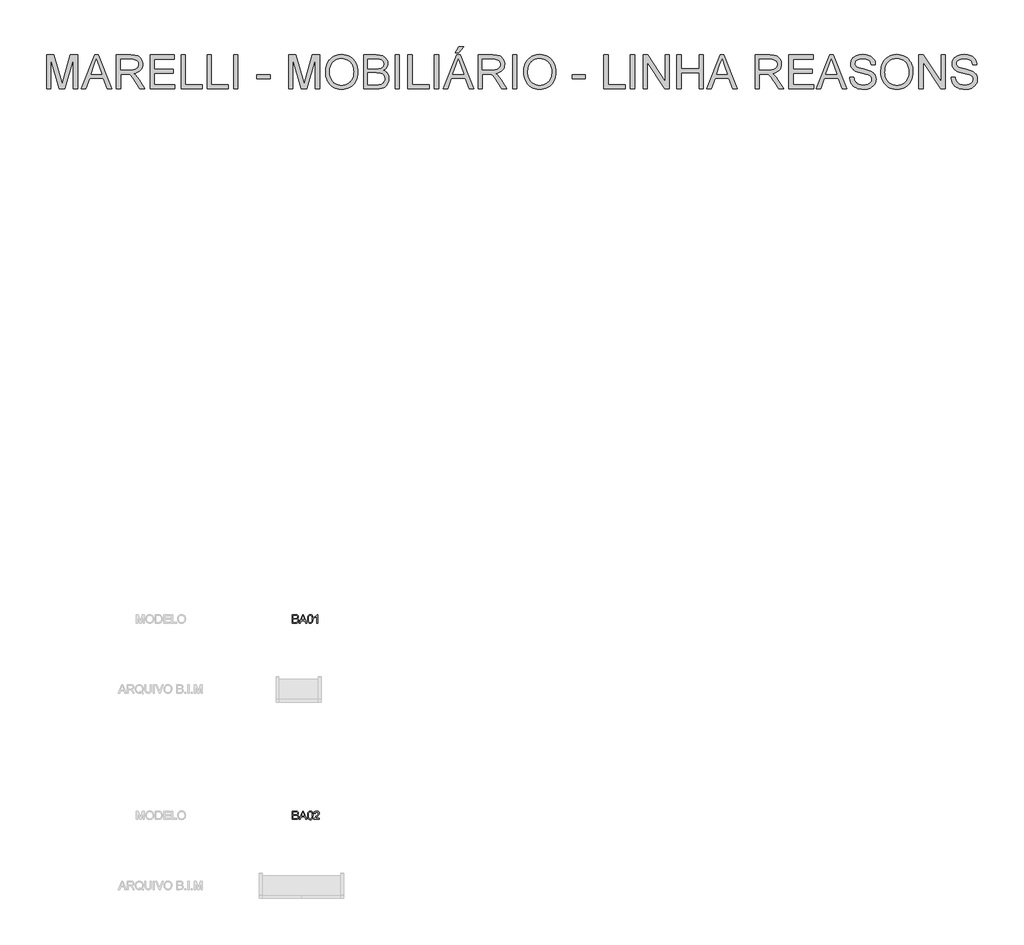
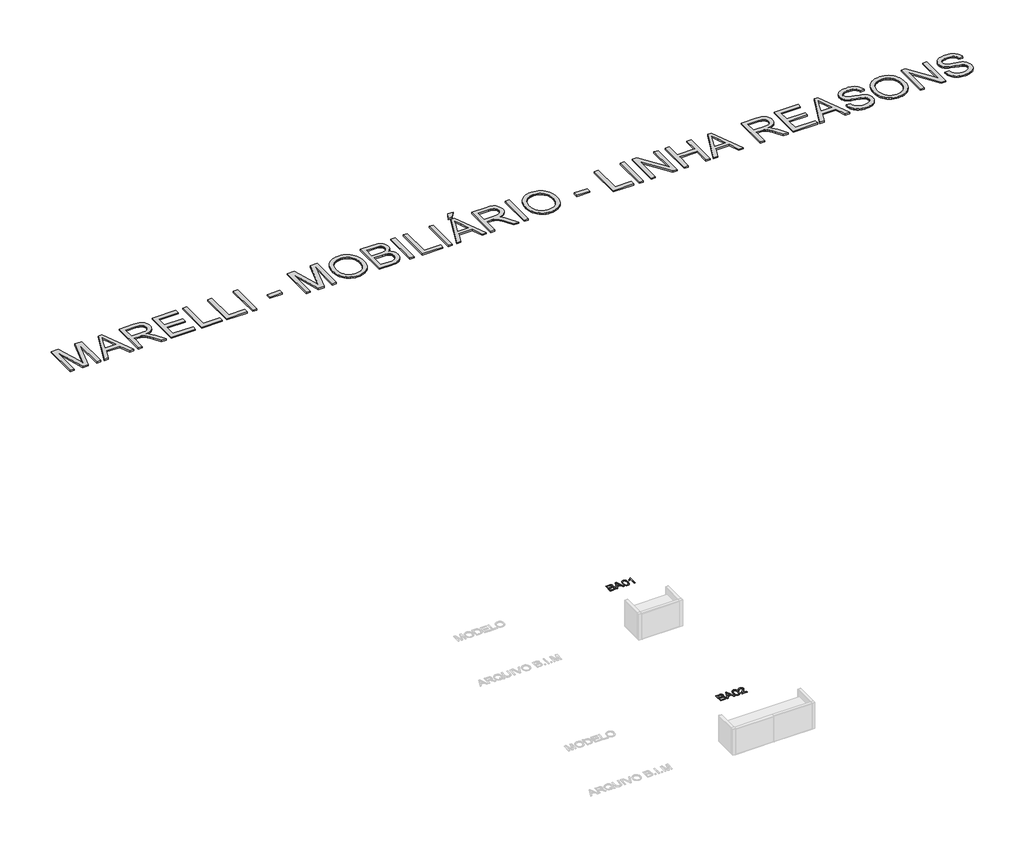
# One storey, part 15 of 15: 3 proxies.
"""IFC4 building model written with IfcOpenShell, lengths in millimetres."""

from ifc_helpers import new_model, si_unit, origin, origin_with_axes, place, context, project, spatial, polyline, outline, extrude, element, save

model = new_model("IFC4")

# Units and contexts
model_context = context("Model", 3, world=origin())
ifc_project = project(units=[si_unit("LENGTHUNIT", "METRE", prefix="MILLI")], contexts=[model_context])

# Site, building, storey
site = spatial("IfcSite", under=ifc_project)
building = spatial("IfcBuilding", under=site)
storey = spatial("IfcBuildingStorey", under=building, Name="Marelli - Linha REASONS - Planta Baixa", Elevation=0.0)

# Proxies
placement = place(None, origin())
element("IfcBuildingElementProxy", 1, Name="1200mm Arial", ObjectType="1200mm Arial", at=placement, inside=storey, context=model_context, shape_type="SweptSolid", body=[
    extrude(outline(polyline([(6826.6220399, 28269.4336799), (6826.6220399, 29474.9094017), (7085.9052701, 29474.9094017), (7332.5333597, 28625.2491457), (7382.2710054, 28447.7828712), (7436.1289295, 28639.9644255), (7678.6367407, 29474.9094017), (7937.9199709, 29474.9094017), (7937.9199709, 28269.4336799), (7787.2355057, 28269.4336799), (7787.2355057, 29324.2249365), (7484.3950473, 28269.4336799), (7280.1469636, 28269.4336799), (6977.3065051, 29324.2249365), (6977.3065051, 28269.4336799), (6826.6220399, 28269.4336799)])), origin_with_axes(), (0.0, 0.0, 1.0), 50.0),
    extrude(outline(polyline([(8061.2340157, 28269.4336799), (8542.4236654, 29474.9094017), (8670.7409053, 29474.9094017), (9151.930555, 28269.4336799), (8992.7112275, 28269.4336799), (8854.6819029, 28646.144843), (8358.1883622, 28646.144843), (8220.4533432, 28269.4336799), (8061.2340157, 28269.4336799)]), holes=[polyline([(8413.5178143, 28796.8293082), (8799.6467564, 28796.8293082), (8691.0479915, 29093.1950435), (8606.5822854, 29324.2249365), (8531.5343584, 29119.093936), (8413.5178143, 28796.8293082)])]), origin_with_axes(), (0.0, 0.0, 1.0), 50.0),
    extrude(outline(polyline([(9312.9157161, 28269.4336799), (9312.9157161, 29474.9094017), (9832.3650933, 29474.9094017), (9906.9255767, 29472.8768537), (9971.9763105, 29466.7792096), (10027.5172947, 29456.6164695), (10073.5485293, 29442.3886334), (10112.7463559, 29423.0012522), (10147.787116, 29397.3598771), (10178.6708095, 29365.4645082), (10205.3974364, 29327.3151453), (10226.9645184, 29284.9627306), (10242.3695769, 29240.4582062), (10251.6126121, 29193.8015722), (10254.6936238, 29144.9928285), (10249.5892611, 29083.0782887), (10234.276173, 29026.2405204), (10208.7543596, 28974.4795237), (10173.0238208, 28927.7952985), (10151.2153163, 28906.7294558), (10126.6247042, 28887.6777669), (10069.0971572, 28855.616851), (10000.4411798, 28831.6125509), (9920.6567721, 28815.6648664), (9970.3208415, 28783.2176744), (10006.2997006, 28751.2119408), (10068.0302994, 28678.0034238), (10128.436523, 28596.1128916), (10329.4472452, 28269.4336799), (10154.3354155, 28269.4336799), (9997.4705327, 28519.2991311), (9934.7098644, 28614.6541442), (9884.1628782, 28684.6988761), (9842.0403898, 28732.9282057), (9804.5532145, 28762.8370119), (9769.0526019, 28780.384983), (9732.8898018, 28791.5318075), (9697.6467067, 28795.504933), (9645.4810398, 28796.8293082), (9463.6001813, 28796.8293082), (9463.6001813, 28269.4336799), (9312.9157161, 28269.4336799)]), holes=[polyline([(9463.6001813, 28947.5137734), (9800.8743945, 28947.5137734), (9897.7377238, 28952.8480624), (9938.0299994, 28959.5159235), (9972.8960155, 28968.8509292), (10003.1175214, 28981.1197937), (10029.4762663, 28996.5892316), (10051.9722503, 29015.2592429), (10070.6054734, 29037.1298275), (10085.2195856, 29061.1249306), (10095.6582373, 29086.1684974), (10101.9214282, 29112.2605279), (10104.0091585, 29139.4010221), (10100.0268359, 29177.9366611), (10088.0798682, 29212.9038448), (10068.1682552, 29244.3025731), (10040.291997, 29272.132846), (10003.8073001, 29294.9231356), (9958.0703711, 29311.2019139), (9903.0812098, 29320.9691808), (9838.8398164, 29324.2249365), (9463.6001813, 29324.2249365), (9463.6001813, 28947.5137734)])]), origin_with_axes(), (0.0, 0.0, 1.0), 50.0),
    extrude(outline(polyline([(10518.3914379, 28269.4336799), (10518.3914379, 29474.9094017), (11384.8271129, 29474.9094017), (11384.8271129, 29324.2249365), (10669.0759031, 29324.2249365), (10669.0759031, 28966.3493316), (11347.1559966, 28966.3493316), (11347.1559966, 28815.6648664), (10669.0759031, 28815.6648664), (10669.0759031, 28420.1181452), (11403.6626711, 28420.1181452), (11403.6626711, 28269.4336799), (10518.3914379, 28269.4336799)])), origin_with_axes(), (0.0, 0.0, 1.0), 50.0),
    extrude(outline(polyline([(11629.6893689, 28269.4336799), (11629.6893689, 29474.9094017), (11780.3738342, 29474.9094017), (11780.3738342, 28420.1181452), (12383.1116951, 28420.1181452), (12383.1116951, 28269.4336799), (11629.6893689, 28269.4336799)])), origin_with_axes(), (0.0, 0.0, 1.0), 50.0),
    extrude(outline(polyline([(12552.6317184, 28269.4336799), (12552.6317184, 29474.9094017), (12703.3161837, 29474.9094017), (12703.3161837, 28420.1181452), (13306.0540446, 28420.1181452), (13306.0540446, 28269.4336799), (12552.6317184, 28269.4336799)])), origin_with_axes(), (0.0, 0.0, 1.0), 50.0),
    extrude(outline(polyline([(13494.4096261, 28269.4336799), (13494.4096261, 29474.9094017), (13645.0940913, 29474.9094017), (13645.0940913, 28269.4336799), (13494.4096261, 28269.4336799)])), origin_with_axes(), (0.0, 0.0, 1.0), 50.0),
    extrude(outline(polyline([(14323.1741848, 28627.3092848), (14323.1741848, 28777.9937501), (14794.0631387, 28777.9937501), (14794.0631387, 28627.3092848), (14323.1741848, 28627.3092848)])), origin_with_axes(), (0.0, 0.0, 1.0), 50.0),
    extrude(outline(polyline([(15453.307674, 28269.4336799), (15453.307674, 29474.9094017), (15712.5909042, 29474.9094017), (15959.2189938, 28625.2491457), (16008.9566395, 28447.7828712), (16062.8145636, 28639.9644255), (16305.3223748, 29474.9094017), (16564.605605, 29474.9094017), (16564.605605, 28269.4336799), (16413.9211398, 28269.4336799), (16413.9211398, 29324.2249365), (16111.0806814, 28269.4336799), (15906.8325977, 28269.4336799), (15603.9921392, 29324.2249365), (15603.9921392, 28269.4336799), (15453.307674, 28269.4336799)])), origin_with_axes(), (0.0, 0.0, 1.0), 50.0),
    extrude(outline(polyline([(16771.7967447, 28856.2790386), (16774.3075393, 28929.0047106), (16781.8399232, 28997.6744835), (16794.3938963, 29062.2883574), (16811.9694586, 29122.8463323), (16834.5666101, 29179.3484083), (16862.1853509, 29231.7945852), (16894.825681, 29280.1848632), (16932.4876002, 29324.5192421), (16974.1180465, 29364.1815197), (17018.6639576, 29398.5554936), (17066.1253335, 29427.6411639), (17116.5021742, 29451.4385304), (17169.7944797, 29469.9475933), (17226.0022501, 29483.1683525), (17285.1254852, 29491.100808), (17347.1641852, 29493.7449599), (17428.263771, 29488.7785529), (17505.2798667, 29473.8793321), (17578.2124722, 29449.0472975), (17647.0615876, 29414.2824489), (17709.8958324, 29370.6332502), (17764.7838261, 29319.148165), (17811.7255687, 29259.8271932), (17850.7210602, 29192.670335), (17881.3656304, 29119.2043006), (17903.2546091, 29040.9558002), (17916.3879963, 28957.9248339), (17920.7657921, 28870.1114017), (17916.1580701, 28781.1391411), (17902.3349041, 28696.9861347), (17879.2962942, 28617.6523825), (17847.0422402, 28543.1378843), (17806.3360975, 28475.410809), (17757.941221, 28416.4393252), (17701.8576108, 28366.2234329), (17638.085267, 28324.763132), (17569.134984, 28292.31594), (17497.5175566, 28269.1393743), (17423.2329847, 28255.2334349), (17346.2812684, 28250.5981218), (17263.7653369, 28255.7208786), (17185.7375657, 28271.0891489), (17112.1979549, 28296.7029328), (17043.1465044, 28332.5622303), (16980.385836, 28377.2782868), (16925.7185715, 28429.4623478), (16879.1447109, 28489.1144134), (16840.6642542, 28556.2344834), (16810.5347188, 28628.1278223), (16789.0136221, 28702.0996945), (16776.1009641, 28778.1500999), (16771.7967447, 28856.2790386)]), holes=[polyline([(16922.4812099, 28854.8075107), (16924.3643059, 28803.4557827), (16930.0135938, 28754.9091549), (16939.4290736, 28709.1676273), (16952.6107454, 28666.2311999), (16969.558609, 28626.0998728), (16990.2726646, 28588.7736458), (17014.7529121, 28554.2525191), (17042.9993516, 28522.5364926), (17074.0876794, 28494.1176085), (17107.0935922, 28469.4879089), (17142.0170898, 28448.6473939), (17178.8581724, 28431.5960634), (17217.6168398, 28418.3339175), (17258.2930922, 28408.8609561), (17300.8869294, 28403.1771793), (17345.3983516, 28401.282587), (17390.7237127, 28403.1955734), (17433.9935331, 28408.9345325), (17475.2078129, 28418.4994644), (17514.366552, 28431.890369), (17551.4697505, 28449.1072464), (17586.5174083, 28470.1500965), (17619.5095255, 28495.0189194), (17650.446102, 28523.713715), (17678.4856078, 28555.9263822), (17702.7865129, 28591.3488198), (17723.3488171, 28629.9810278), (17740.1725206, 28671.8230063), (17753.2576233, 28716.8747551), (17762.6041253, 28765.1362743), (17768.2120264, 28816.607564), (17770.0813268, 28871.288624), (17766.8807535, 28940.248104), (17757.2790334, 29004.6826355), (17741.2761666, 29064.5922184), (17718.8721531, 29119.9768528), (17690.3153132, 29170.1099717), (17655.8539673, 29214.2650081), (17615.4881154, 29252.4419622), (17569.2177575, 29284.6408338), (17518.4776333, 29310.1994354), (17464.7024826, 29328.4555794), (17407.8923055, 29339.4092659), (17348.047102, 29343.0604947), (17305.2486304, 29341.3015589), (17263.967672, 29336.0247515), (17224.2042268, 29327.2300726), (17185.9582949, 29314.917522), (17149.2298762, 29299.0870999), (17114.0189707, 29279.7388062), (17080.3255785, 29256.872641), (17048.1496995, 29230.4886041), (17018.6961473, 29199.993486), (16993.1697353, 29164.7940768), (16971.5704637, 29124.8903767), (16953.8983323, 29080.2823855), (16940.1533413, 29030.9701033), (16930.3354905, 28976.9535301), (16924.4447801, 28918.2326659), (16922.4812099, 28854.8075107)])]), origin_with_axes(), (0.0, 0.0, 1.0), 50.0),
    extrude(outline(polyline([(18127.9569317, 28269.4336799), (18127.9569317, 29474.9094017), (18587.9565785, 29474.9094017), (18654.6811754, 29472.6929127), (18714.4711967, 29466.0434456), (18767.3266423, 29454.9610005), (18813.2475124, 29439.4455774), (18853.4018321, 29419.3316293), (18888.957627, 29394.4536094), (18919.9148969, 29364.8115176), (18946.2736418, 29330.405354), (18967.325689, 29293.1756961), (18982.3628655, 29255.0631214), (18991.3851715, 29216.0676299), (18994.3926068, 29176.1892216), (18991.8634181, 29139.3550369), (18984.2758519, 29103.606104), (18971.6299083, 29068.942423), (18953.9255873, 29035.3639939), (18931.1077066, 29003.9192804), (18903.1210838, 28975.6567461), (18869.965719, 28950.5763911), (18831.6416121, 28928.6782153), (18877.1210238, 28909.2908341), (18917.0270232, 28884.0909175), (18951.3596104, 28853.0784653), (18980.1187854, 28816.2534776), (19002.8446956, 28774.7379944), (19019.0774887, 28729.6540559), (19028.8171645, 28681.001662), (19032.0637231, 28628.7808128), (19029.8472341, 28585.9869397), (19023.197767, 28544.7197769), (19012.1153219, 28504.9793244), (18996.5998988, 28466.7655821), (18977.8103258, 28431.4673047), (18956.9054315, 28400.4732466), (18933.8852156, 28373.7834079), (18908.7496783, 28351.3977885), (18880.9102083, 28332.3966834), (18849.7781945, 28315.8603877), (18815.3536368, 28301.7889014), (18777.6365352, 28290.1822245), (18736.0382786, 28281.1047362), (18689.9702558, 28274.6208161), (18584.4249114, 28269.4336799), (18127.9569317, 28269.4336799)]), holes=[polyline([(18278.641397, 28985.1848897), (18553.8171294, 28985.1848897), (18650.0550593, 28988.4222513), (18714.5079849, 28998.134336), (18744.6099291, 29007.9108), (18770.7571419, 29020.4647731), (18792.9496233, 29035.7962552), (18811.1873732, 29053.9052464), (18825.4152093, 29074.662988), (18835.5779495, 29097.9407213), (18841.6755935, 29123.7384462), (18843.7081416, 29152.0561628), (18841.8135493, 29179.1690658), (18836.1297725, 29204.5897117), (18826.6568111, 29228.3181004), (18813.3946652, 29250.3542319), (18796.6008521, 29269.8795688), (18776.5328892, 29286.0755736), (18753.1907766, 29298.9422464), (18726.5745143, 29308.4795871), (18693.2811937, 29315.3681775), (18649.9079065, 29320.2885992), (18532.921432, 29324.2249365), (18278.641397, 29324.2249365), (18278.641397, 28985.1848897)]), polyline([(18278.641397, 28420.1181452), (18587.6622729, 28420.1181452), (18655.35256, 28421.5896731), (18699.4983994, 28426.0042571), (18751.406549, 28439.0640679), (18794.1176486, 28458.819331), (18828.845709, 28487.1094565), (18856.8047406, 28525.7738542), (18867.5560919, 28548.5641438), (18875.2356285, 28573.0834788), (18879.8433505, 28599.3318591), (18881.3792579, 28627.3092848), (18879.5766361, 28659.9036296), (18874.1687708, 28690.2906824), (18865.1556619, 28718.4704432), (18852.5373094, 28744.4429121), (18835.8814521, 28767.463128), (18814.7558285, 28786.7861297), (18789.1604387, 28802.4119175), (18759.0952827, 28814.3404912), (18723.2359852, 28823.160462), (18680.2581711, 28829.4604412), (18572.9469931, 28834.5004245), (18278.641397, 28834.5004245), (18278.641397, 28420.1181452)])]), origin_with_axes(), (0.0, 0.0, 1.0), 50.0),
    extrude(outline(polyline([(19258.0904209, 28269.4336799), (19258.0904209, 29474.9094017), (19408.7748861, 29474.9094017), (19408.7748861, 28269.4336799), (19258.0904209, 28269.4336799)])), origin_with_axes(), (0.0, 0.0, 1.0), 50.0),
    extrude(outline(polyline([(19710.1438166, 28269.4336799), (19710.1438166, 29474.9094017), (19860.8282818, 29474.9094017), (19860.8282818, 28420.1181452), (20463.5661427, 28420.1181452), (20463.5661427, 28269.4336799), (19710.1438166, 28269.4336799)])), origin_with_axes(), (0.0, 0.0, 1.0), 50.0),
    extrude(outline(polyline([(20651.9217243, 28269.4336799), (20651.9217243, 29474.9094017), (20802.6061895, 29474.9094017), (20802.6061895, 28269.4336799), (20651.9217243, 28269.4336799)])), origin_with_axes(), (0.0, 0.0, 1.0), 50.0),
    extrude(outline(polyline([(20963.5913506, 28269.4336799), (21444.7810003, 29474.9094017), (21573.0982402, 29474.9094017), (22054.2878899, 28269.4336799), (21895.0685624, 28269.4336799), (21757.0392378, 28646.144843), (21260.5456971, 28646.144843), (21122.8106781, 28269.4336799), (20963.5913506, 28269.4336799)]), holes=[polyline([(21315.8751491, 28796.8293082), (21702.0040913, 28796.8293082), (21593.4053263, 29093.1950435), (21508.9396202, 29324.2249365), (21433.8916932, 29119.093936), (21315.8751491, 28796.8293082)])]), origin_with_axes(), (0.0, 0.0, 1.0), 50.0),
    extrude(outline(polyline([(21405.3440504, 29550.2516343), (21518.3573993, 29776.2783322), (21706.7129808, 29776.2783322), (21518.3573993, 29550.2516343), (21405.3440504, 29550.2516343)])), origin_with_axes(), (0.0, 0.0, 1.0), 50.0),
    extrude(outline(polyline([(22215.273051, 28269.4336799), (22215.273051, 29474.9094017), (22734.7224281, 29474.9094017), (22809.2829115, 29472.8768537), (22874.3336453, 29466.7792096), (22929.8746295, 29456.6164695), (22975.9058642, 29442.3886334), (23015.1036908, 29423.0012522), (23050.1444508, 29397.3598771), (23081.0281443, 29365.4645082), (23107.7547713, 29327.3151453), (23129.3218532, 29284.9627306), (23144.7269118, 29240.4582062), (23153.9699469, 29193.8015722), (23157.0509586, 29144.9928285), (23151.9465959, 29083.0782887), (23136.6335079, 29026.2405204), (23111.1116945, 28974.4795237), (23075.3811557, 28927.7952985), (23053.5726512, 28906.7294558), (23028.982039, 28887.6777669), (22971.454492, 28855.616851), (22902.7985147, 28831.6125509), (22823.014107, 28815.6648664), (22872.6781763, 28783.2176744), (22908.6570355, 28751.2119408), (22970.3876343, 28678.0034238), (23030.7938579, 28596.1128916), (23231.80458, 28269.4336799), (23056.6927503, 28269.4336799), (22899.8278676, 28519.2991311), (22837.0671992, 28614.6541442), (22786.5202131, 28684.6988761), (22744.3977246, 28732.9282057), (22706.9105493, 28762.8370119), (22671.4099368, 28780.384983), (22635.2471366, 28791.5318075), (22600.0040415, 28795.504933), (22547.8383746, 28796.8293082), (22365.9575162, 28796.8293082), (22365.9575162, 28269.4336799), (22215.273051, 28269.4336799)]), holes=[polyline([(22365.9575162, 28947.5137734), (22703.2317294, 28947.5137734), (22800.0950587, 28952.8480624), (22840.3873342, 28959.5159235), (22875.2533503, 28968.8509292), (22905.4748562, 28981.1197937), (22931.8336012, 28996.5892316), (22954.3295852, 29015.2592429), (22972.9628082, 29037.1298275), (22987.5769205, 29061.1249306), (22998.0155721, 29086.1684974), (23004.2787631, 29112.2605279), (23006.3664934, 29139.4010221), (23002.3841708, 29177.9366611), (22990.437203, 29212.9038448), (22970.52559, 29244.3025731), (22942.6493318, 29272.132846), (22906.1646349, 29294.9231356), (22860.4277059, 29311.2019139), (22805.4385447, 29320.9691808), (22741.1971513, 29324.2249365), (22365.9575162, 29324.2249365), (22365.9575162, 28947.5137734)])]), origin_with_axes(), (0.0, 0.0, 1.0), 50.0),
    extrude(outline(polyline([(23439.5843309, 28269.4336799), (23439.5843309, 29474.9094017), (23590.2687961, 29474.9094017), (23590.2687961, 28269.4336799), (23439.5843309, 28269.4336799)])), origin_with_axes(), (0.0, 0.0, 1.0), 50.0),
    extrude(outline(polyline([(23835.1310521, 28856.2790386), (23837.6418467, 28929.0047106), (23845.1742306, 28997.6744835), (23857.7282037, 29062.2883574), (23875.303766, 29122.8463323), (23897.9009175, 29179.3484083), (23925.5196583, 29231.7945852), (23958.1599884, 29280.1848632), (23995.8219076, 29324.5192421), (24037.4523539, 29364.1815197), (24081.998265, 29398.5554936), (24129.4596409, 29427.6411639), (24179.8364816, 29451.4385304), (24233.1287871, 29469.9475933), (24289.3365575, 29483.1683525), (24348.4597926, 29491.100808), (24410.4984926, 29493.7449599), (24491.5980784, 29488.7785529), (24568.6141741, 29473.8793321), (24641.5467796, 29449.0472975), (24710.395895, 29414.2824489), (24773.2301398, 29370.6332502), (24828.1181335, 29319.148165), (24875.0598761, 29259.8271932), (24914.0553676, 29192.670335), (24944.6999378, 29119.2043006), (24966.5889165, 29040.9558002), (24979.7223037, 28957.9248339), (24984.1000995, 28870.1114017), (24979.4923775, 28781.1391411), (24965.6692115, 28696.9861347), (24942.6306015, 28617.6523825), (24910.3765476, 28543.1378843), (24869.6704049, 28475.410809), (24821.2755284, 28416.4393252), (24765.1919182, 28366.2234329), (24701.4195744, 28324.763132), (24632.4692914, 28292.31594), (24560.851864, 28269.1393743), (24486.5672921, 28255.2334349), (24409.6155758, 28250.5981218), (24327.0996443, 28255.7208786), (24249.0718731, 28271.0891489), (24175.5322623, 28296.7029328), (24106.4808118, 28332.5622303), (24043.7201434, 28377.2782868), (23989.0528789, 28429.4623478), (23942.4790183, 28489.1144134), (23903.9985616, 28556.2344834), (23873.8690262, 28628.1278223), (23852.3479295, 28702.0996945), (23839.4352715, 28778.1500999), (23835.1310521, 28856.2790386)]), holes=[polyline([(23985.8155173, 28854.8075107), (23987.6986133, 28803.4557827), (23993.3479012, 28754.9091549), (24002.763381, 28709.1676273), (24015.9450527, 28666.2311999), (24032.8929164, 28626.0998728), (24053.606972, 28588.7736458), (24078.0872195, 28554.2525191), (24106.333659, 28522.5364926), (24137.4219868, 28494.1176085), (24170.4278996, 28469.4879089), (24205.3513972, 28448.6473939), (24242.1924798, 28431.5960634), (24280.9511472, 28418.3339175), (24321.6273996, 28408.8609561), (24364.2212368, 28403.1771793), (24408.732659, 28401.282587), (24454.0580201, 28403.1955734), (24497.3278405, 28408.9345325), (24538.5421203, 28418.4994644), (24577.7008594, 28431.890369), (24614.8040579, 28449.1072464), (24649.8517157, 28470.1500965), (24682.8438329, 28495.0189194), (24713.7804094, 28523.713715), (24741.8199152, 28555.9263822), (24766.1208203, 28591.3488198), (24786.6831245, 28629.9810278), (24803.506828, 28671.8230063), (24816.5919307, 28716.8747551), (24825.9384327, 28765.1362743), (24831.5463338, 28816.607564), (24833.4156342, 28871.288624), (24830.2150609, 28940.248104), (24820.6133408, 29004.6826355), (24804.610474, 29064.5922184), (24782.2064605, 29119.9768528), (24753.6496206, 29170.1099717), (24719.1882747, 29214.2650081), (24678.8224228, 29252.4419622), (24632.5520649, 29284.6408338), (24581.8119407, 29310.1994354), (24528.03679, 29328.4555794), (24471.2266129, 29339.4092659), (24411.3814094, 29343.0604947), (24368.5829377, 29341.3015589), (24327.3019794, 29336.0247515), (24287.5385342, 29327.2300726), (24249.2926023, 29314.917522), (24212.5641836, 29299.0870999), (24177.3532781, 29279.7388062), (24143.6598859, 29256.872641), (24111.4840069, 29230.4886041), (24082.0304547, 29199.993486), (24056.5040427, 29164.7940768), (24034.9047711, 29124.8903767), (24017.2326397, 29080.2823855), (24003.4876487, 29030.9701033), (23993.6697979, 28976.9535301), (23987.7790875, 28918.2326659), (23985.8155173, 28854.8075107)])]), origin_with_axes(), (0.0, 0.0, 1.0), 50.0),
    extrude(outline(polyline([(25568.0024022, 28627.3092848), (25568.0024022, 28777.9937501), (26038.891356, 28777.9937501), (26038.891356, 28627.3092848), (25568.0024022, 28627.3092848)])), origin_with_axes(), (0.0, 0.0, 1.0), 50.0),
    extrude(outline(polyline([(26698.1358914, 28269.4336799), (26698.1358914, 29474.9094017), (26848.8203566, 29474.9094017), (26848.8203566, 28420.1181452), (27451.5582175, 28420.1181452), (27451.5582175, 28269.4336799), (26698.1358914, 28269.4336799)])), origin_with_axes(), (0.0, 0.0, 1.0), 50.0),
    extrude(outline(polyline([(27639.913799, 28269.4336799), (27639.913799, 29474.9094017), (27790.5982643, 29474.9094017), (27790.5982643, 28269.4336799), (27639.913799, 28269.4336799)])), origin_with_axes(), (0.0, 0.0, 1.0), 50.0),
    extrude(outline(polyline([(28091.9671947, 28269.4336799), (28091.9671947, 29474.9094017), (28253.2466614, 29474.9094017), (28883.0606371, 28519.8877422), (28883.0606371, 29474.9094017), (29033.7451024, 29474.9094017), (29033.7451024, 28269.4336799), (28872.4656357, 28269.4336799), (28242.6516599, 29224.749645), (28242.6516599, 28269.4336799), (28091.9671947, 28269.4336799)])), origin_with_axes(), (0.0, 0.0, 1.0), 50.0),
    extrude(outline(polyline([(29297.4429165, 28269.4336799), (29297.4429165, 29474.9094017), (29448.1273817, 29474.9094017), (29448.1273817, 28985.1848897), (30088.5363589, 28985.1848897), (30088.5363589, 29474.9094017), (30239.2208242, 29474.9094017), (30239.2208242, 28269.4336799), (30088.5363589, 28269.4336799), (30088.5363589, 28834.5004245), (29448.1273817, 28834.5004245), (29448.1273817, 28269.4336799), (29297.4429165, 28269.4336799)])), origin_with_axes(), (0.0, 0.0, 1.0), 50.0),
    extrude(outline(polyline([(30362.5348689, 28269.4336799), (30843.7245186, 29474.9094017), (30972.0417585, 29474.9094017), (31453.2314082, 28269.4336799), (31294.0120807, 28269.4336799), (31155.9827561, 28646.144843), (30659.4892154, 28646.144843), (30521.7541965, 28269.4336799), (30362.5348689, 28269.4336799)]), holes=[polyline([(30714.8186675, 28796.8293082), (31100.9476097, 28796.8293082), (30992.3488447, 29093.1950435), (30907.8831386, 29324.2249365), (30832.8352116, 29119.093936), (30714.8186675, 28796.8293082)])]), origin_with_axes(), (0.0, 0.0, 1.0), 50.0),
    extrude(outline(polyline([(32085.1055232, 28269.4336799), (32085.1055232, 29474.9094017), (32604.5549003, 29474.9094017), (32679.1153837, 29472.8768537), (32744.1661175, 29466.7792096), (32799.7071017, 29456.6164695), (32845.7383364, 29442.3886334), (32884.936163, 29423.0012522), (32919.976923, 29397.3598771), (32950.8606165, 29365.4645082), (32977.5872435, 29327.3151453), (32999.1543254, 29284.9627306), (33014.559384, 29240.4582062), (33023.8024191, 29193.8015722), (33026.8834308, 29144.9928285), (33021.7790681, 29083.0782887), (33006.4659801, 29026.2405204), (32980.9441667, 28974.4795237), (32945.2136279, 28927.7952985), (32923.4051234, 28906.7294558), (32898.8145112, 28887.6777669), (32841.2869642, 28855.616851), (32772.6309869, 28831.6125509), (32692.8465792, 28815.6648664), (32742.5106485, 28783.2176744), (32778.4895077, 28751.2119408), (32840.2201065, 28678.0034238), (32900.6263301, 28596.1128916), (33101.6370522, 28269.4336799), (32926.5252225, 28269.4336799), (32769.6603398, 28519.2991311), (32706.8996714, 28614.6541442), (32656.3526853, 28684.6988761), (32614.2301968, 28732.9282057), (32576.7430215, 28762.8370119), (32541.242409, 28780.384983), (32505.0796088, 28791.5318075), (32469.8365137, 28795.504933), (32417.6708468, 28796.8293082), (32235.7899884, 28796.8293082), (32235.7899884, 28269.4336799), (32085.1055232, 28269.4336799)]), holes=[polyline([(32235.7899884, 28947.5137734), (32573.0642016, 28947.5137734), (32669.9275309, 28952.8480624), (32710.2198064, 28959.5159235), (32745.0858225, 28968.8509292), (32775.3073284, 28981.1197937), (32801.6660734, 28996.5892316), (32824.1620574, 29015.2592429), (32842.7952804, 29037.1298275), (32857.4093927, 29061.1249306), (32867.8480443, 29086.1684974), (32874.1112353, 29112.2605279), (32876.1989656, 29139.4010221), (32872.216643, 29177.9366611), (32860.2696752, 29212.9038448), (32840.3580622, 29244.3025731), (32812.481804, 29272.132846), (32775.9971071, 29294.9231356), (32730.2601781, 29311.2019139), (32675.2710169, 29320.9691808), (32611.0296235, 29324.2249365), (32235.7899884, 29324.2249365), (32235.7899884, 28947.5137734)])]), origin_with_axes(), (0.0, 0.0, 1.0), 50.0),
    extrude(outline(polyline([(33290.5812449, 28269.4336799), (33290.5812449, 29474.9094017), (34157.01692, 29474.9094017), (34157.01692, 29324.2249365), (33441.2657102, 29324.2249365), (33441.2657102, 28966.3493316), (34119.3458037, 28966.3493316), (34119.3458037, 28815.6648664), (33441.2657102, 28815.6648664), (33441.2657102, 28420.1181452), (34175.8524781, 28420.1181452), (34175.8524781, 28269.4336799), (33290.5812449, 28269.4336799)])), origin_with_axes(), (0.0, 0.0, 1.0), 50.0),
    extrude(outline(polyline([(34261.4954066, 28269.4336799), (34742.6850563, 29474.9094017), (34871.0022962, 29474.9094017), (35352.1919459, 28269.4336799), (35192.9726184, 28269.4336799), (35054.9432938, 28646.144843), (34558.4497531, 28646.144843), (34420.7147341, 28269.4336799), (34261.4954066, 28269.4336799)]), holes=[polyline([(34613.7792052, 28796.8293082), (34999.9081473, 28796.8293082), (34891.3093824, 29093.1950435), (34806.8436763, 29324.2249365), (34731.7957493, 29119.093936), (34613.7792052, 28796.8293082)])]), origin_with_axes(), (0.0, 0.0, 1.0), 50.0),
    extrude(outline(polyline([(35456.6704325, 28683.8159593), (35607.3548978, 28683.8159593), (35614.2526852, 28639.9552284), (35624.6453515, 28600.1963818), (35638.5328969, 28564.5394194), (35655.9153211, 28532.9843413), (35677.6755412, 28504.8965509), (35704.6964737, 28479.641452), (35736.9781188, 28457.2190444), (35774.5204764, 28437.6293281), (35815.943989, 28421.7276289), (35859.8690993, 28410.3692723), (35906.2958071, 28403.5542583), (35955.2241124, 28401.282587), (35998.5054291, 28403.0024353), (36039.1747837, 28408.1619803), (36077.2321761, 28416.761222), (36112.6776063, 28428.8001602), (36144.6373547, 28443.8465338), (36172.2377014, 28461.4680814), (36195.4786464, 28481.6648029), (36214.3601898, 28504.4366985), (36228.9743021, 28528.7996836), (36239.4129537, 28553.769674), (36245.6761447, 28579.3466697), (36247.763875, 28605.5306707), (36246.2003765, 28631.6043071), (36241.5098811, 28655.9672923), (36233.6923887, 28678.6196261), (36222.7478993, 28699.5613087), (36206.9657617, 28718.9027046), (36184.6353246, 28736.7541784), (36155.756588, 28753.1157301), (36120.3295518, 28767.9873598), (36040.7566763, 28791.6421721), (35900.9247299, 28825.5241038), (35756.8989288, 28863.5998903), (35704.3377888, 28881.9480049), (35664.744489, 28899.8362669), (35624.5073958, 28923.8405671), (35589.7333502, 28950.5304058), (35560.4223522, 28979.9057831), (35536.5744019, 29011.966699), (35518.0975287, 29046.3820596), (35504.8997621, 29082.8207713), (35496.9811022, 29121.2828339), (35494.3415489, 29161.7682474), (35497.6065016, 29206.6406538), (35507.4013597, 29250.0231381), (35523.7261232, 29291.9157003), (35546.5807922, 29332.3183404), (35575.7078491, 29369.5847865), (35610.8497767, 29402.0687667), (35652.0065749, 29429.7702809), (35699.1782438, 29452.6893292), (35750.7736936, 29470.6511676), (35805.2018348, 29483.4810522), (35862.4626673, 29491.178983), (35922.5561912, 29493.7449599), (35988.1127628, 29491.0594213), (36049.6962088, 29483.0028056), (36107.3065292, 29469.5751128), (36160.9437241, 29450.7763428), (36209.6145121, 29426.7720427), (36252.3256117, 29397.7277591), (36289.077023, 29363.6434923), (36319.868746, 29324.5192421), (36344.4616574, 29281.4954428), (36362.6166339, 29235.7125285), (36374.3336754, 29187.1704992), (36379.612782, 29135.869355), (36228.9283168, 29135.869355), (36218.8483502, 29183.9515317), (36201.2635908, 29225.7797146), (36176.1740387, 29261.3539035), (36143.5796939, 29290.6740985), (36102.8735512, 29313.5931468), (36053.4486051, 29329.9638956), (35995.3048558, 29339.7863449), (35928.4423032, 29343.0604947), (35859.446035, 29339.8231331), (35800.4929452, 29330.1110484), (35751.583034, 29313.9242406), (35712.7163012, 29291.2627097), (35683.1018006, 29264.021048), (35661.9485859, 29234.0938477), (35649.256657, 29201.4811088), (35645.0260141, 29166.1828314), (35648.0242523, 29135.8141727), (35657.0189671, 29108.2782053), (35672.0101584, 29083.5749294), (35692.9978263, 29061.7043447), (35726.0336294, 29040.9925884), (35778.0521435, 29020.0601029), (35849.0533686, 28998.9068882), (35939.0373046, 28977.5329442), (36105.1728136, 28937.1395012), (36163.6292627, 28918.8741601), (36205.6781747, 28901.896406), (36251.8749563, 28876.1630605), (36291.5786206, 28847.2291416), (36324.7891677, 28815.0946493), (36351.5065976, 28779.7595836), (36372.04361, 28741.4078856), (36386.7129046, 28700.2234963), (36395.5144813, 28656.2064156), (36398.4483402, 28609.3566435), (36395.0730229, 28562.2217628), (36384.947071, 28516.4664397), (36368.0704845, 28472.090674), (36344.4432633, 28429.0944658), (36314.4792748, 28389.1424812), (36278.5923862, 28353.899386), (36236.7825974, 28323.3651804), (36189.0499085, 28297.5398644), (36136.7830741, 28277.002852), (36081.3708486, 28262.3335574), (36022.813232, 28253.5319807), (35961.1102243, 28250.5981218), (35884.0297493, 28253.7619069), (35813.4791797, 28263.2532624), (35749.4585155, 28279.0721882), (35691.9677567, 28301.2186843), (35640.6574154, 28329.7295389), (35595.1780037, 28364.6415403), (35555.5295217, 28405.9546883), (35521.7119693, 28453.6689831), (35494.4703076, 28506.2393202), (35474.5494975, 28562.1205953), (35461.9495392, 28621.3128083), (35456.6704325, 28683.8159593)])), origin_with_axes(), (0.0, 0.0, 1.0), 50.0),
    extrude(outline(polyline([(36567.9683636, 28856.2790386), (36570.4791582, 28929.0047106), (36578.011542, 28997.6744835), (36590.5655151, 29062.2883574), (36608.1410775, 29122.8463323), (36630.738229, 29179.3484083), (36658.3569698, 29231.7945852), (36690.9972998, 29280.1848632), (36728.6592191, 29324.5192421), (36770.2896654, 29364.1815197), (36814.8355764, 29398.5554936), (36862.2969523, 29427.6411639), (36912.6737931, 29451.4385304), (36965.9660986, 29469.9475933), (37022.1738689, 29483.1683525), (37081.2971041, 29491.100808), (37143.335804, 29493.7449599), (37224.4353899, 29488.7785529), (37301.4514856, 29473.8793321), (37374.3840911, 29449.0472975), (37443.2332065, 29414.2824489), (37506.0674513, 29370.6332502), (37560.955445, 29319.148165), (37607.8971875, 29259.8271932), (37646.892679, 29192.670335), (37677.5372492, 29119.2043006), (37699.4262279, 29040.9558002), (37712.5596152, 28957.9248339), (37716.9374109, 28870.1114017), (37712.3296889, 28781.1391411), (37698.506523, 28696.9861347), (37675.467913, 28617.6523825), (37643.2138591, 28543.1378843), (37602.5077163, 28475.410809), (37554.1128399, 28416.4393252), (37498.0292297, 28366.2234329), (37434.2568858, 28324.763132), (37365.3066029, 28292.31594), (37293.6891755, 28269.1393743), (37219.4046036, 28255.2334349), (37142.4528872, 28250.5981218), (37059.9369557, 28255.7208786), (36981.9091846, 28271.0891489), (36908.3695737, 28296.7029328), (36839.3181232, 28332.5622303), (36776.5574548, 28377.2782868), (36721.8901904, 28429.4623478), (36675.3163298, 28489.1144134), (36636.8358731, 28556.2344834), (36606.7063377, 28628.1278223), (36585.185241, 28702.0996945), (36572.2725829, 28778.1500999), (36567.9683636, 28856.2790386)]), holes=[polyline([(36718.6528288, 28854.8075107), (36720.5359248, 28803.4557827), (36726.1852127, 28754.9091549), (36735.6006925, 28709.1676273), (36748.7823642, 28666.2311999), (36765.7302279, 28626.0998728), (36786.4442835, 28588.7736458), (36810.924531, 28554.2525191), (36839.1709704, 28522.5364926), (36870.2592983, 28494.1176085), (36903.265211, 28469.4879089), (36938.1887087, 28448.6473939), (36975.0297912, 28431.5960634), (37013.7884587, 28418.3339175), (37054.4647111, 28408.8609561), (37097.0585483, 28403.1771793), (37141.5699705, 28401.282587), (37186.8953315, 28403.1955734), (37230.1651519, 28408.9345325), (37271.3794317, 28418.4994644), (37310.5381708, 28431.890369), (37347.6413693, 28449.1072464), (37382.6890271, 28470.1500965), (37415.6811443, 28495.0189194), (37446.6177209, 28523.713715), (37474.6572267, 28555.9263822), (37498.9581317, 28591.3488198), (37519.520436, 28629.9810278), (37536.3441395, 28671.8230063), (37549.4292422, 28716.8747551), (37558.7757441, 28765.1362743), (37564.3836453, 28816.607564), (37566.2529457, 28871.288624), (37563.0523723, 28940.248104), (37553.4506523, 29004.6826355), (37537.4477855, 29064.5922184), (37515.043772, 29119.9768528), (37486.4869321, 29170.1099717), (37452.0255862, 29214.2650081), (37411.6597343, 29252.4419622), (37365.3893763, 29284.6408338), (37314.6492521, 29310.1994354), (37260.8741015, 29328.4555794), (37204.0639244, 29339.4092659), (37144.2187208, 29343.0604947), (37101.4202492, 29341.3015589), (37060.1392908, 29336.0247515), (37020.3758457, 29327.2300726), (36982.1299137, 29314.917522), (36945.4014951, 29299.0870999), (36910.1905896, 29279.7388062), (36876.4971974, 29256.872641), (36844.3213184, 29230.4886041), (36814.8677661, 29199.993486), (36789.3413542, 29164.7940768), (36767.7420825, 29124.8903767), (36750.0699512, 29080.2823855), (36736.3249601, 29030.9701033), (36726.5071094, 28976.9535301), (36720.616399, 28918.2326659), (36718.6528288, 28854.8075107)])]), origin_with_axes(), (0.0, 0.0, 1.0), 50.0),
    extrude(outline(polyline([(37924.1285506, 28269.4336799), (37924.1285506, 29474.9094017), (38085.4080173, 29474.9094017), (38715.221993, 28519.8877422), (38715.221993, 29474.9094017), (38865.9064583, 29474.9094017), (38865.9064583, 28269.4336799), (38704.6269916, 28269.4336799), (38074.8130158, 29224.749645), (38074.8130158, 28269.4336799), (37924.1285506, 28269.4336799)])), origin_with_axes(), (0.0, 0.0, 1.0), 50.0),
    extrude(outline(polyline([(39073.0975979, 28683.8159593), (39223.7820632, 28683.8159593), (39230.6798506, 28639.9552284), (39241.0725169, 28600.1963818), (39254.9600623, 28564.5394194), (39272.3424865, 28532.9843413), (39294.1027065, 28504.8965509), (39321.1236391, 28479.641452), (39353.4052842, 28457.2190444), (39390.9476418, 28437.6293281), (39432.3711544, 28421.7276289), (39476.2962646, 28410.3692723), (39522.7229724, 28403.5542583), (39571.6512778, 28401.282587), (39614.9325945, 28403.0024353), (39655.6019491, 28408.1619803), (39693.6593415, 28416.761222), (39729.1047717, 28428.8001602), (39761.0645201, 28443.8465338), (39788.6648668, 28461.4680814), (39811.9058118, 28481.6648029), (39830.7873552, 28504.4366985), (39845.4014675, 28528.7996836), (39855.8401191, 28553.769674), (39862.10331, 28579.3466697), (39864.1910404, 28605.5306707), (39862.6275419, 28631.6043071), (39857.9370464, 28655.9672923), (39850.119554, 28678.6196261), (39839.1750647, 28699.5613087), (39823.3929271, 28718.9027046), (39801.06249, 28736.7541784), (39772.1837534, 28753.1157301), (39736.7567172, 28767.9873598), (39657.1838417, 28791.6421721), (39517.3518953, 28825.5241038), (39373.3260942, 28863.5998903), (39320.7649541, 28881.9480049), (39281.1716544, 28899.8362669), (39240.9345612, 28923.8405671), (39206.1605156, 28950.5304058), (39176.8495176, 28979.9057831), (39153.0015673, 29011.966699), (39134.5246941, 29046.3820596), (39121.3269275, 29082.8207713), (39113.4082676, 29121.2828339), (39110.7687142, 29161.7682474), (39114.0336669, 29206.6406538), (39123.8285251, 29250.0231381), (39140.1532886, 29291.9157003), (39163.0079576, 29332.3183404), (39192.1350145, 29369.5847865), (39227.2769421, 29402.0687667), (39268.4337403, 29429.7702809), (39315.6054092, 29452.6893292), (39367.200859, 29470.6511676), (39421.6290002, 29483.4810522), (39478.8898327, 29491.178983), (39538.9833566, 29493.7449599), (39604.5399282, 29491.0594213), (39666.1233742, 29483.0028056), (39723.7336946, 29469.5751128), (39777.3708895, 29450.7763428), (39826.0416775, 29426.7720427), (39868.7527771, 29397.7277591), (39905.5041884, 29363.6434923), (39936.2959114, 29324.5192421), (39960.8888228, 29281.4954428), (39979.0437993, 29235.7125285), (39990.7608408, 29187.1704992), (39996.0399474, 29135.869355), (39845.3554822, 29135.869355), (39835.2755155, 29183.9515317), (39817.6907562, 29225.7797146), (39792.6012041, 29261.3539035), (39760.0068593, 29290.6740985), (39719.3007166, 29313.5931468), (39669.8757705, 29329.9638956), (39611.7320212, 29339.7863449), (39544.8694686, 29343.0604947), (39475.8732004, 29339.8231331), (39416.9201106, 29330.1110484), (39368.0101994, 29313.9242406), (39329.1434666, 29291.2627097), (39299.528966, 29264.021048), (39278.3757512, 29234.0938477), (39265.6838224, 29201.4811088), (39261.4531795, 29166.1828314), (39264.4514177, 29135.8141727), (39273.4461325, 29108.2782053), (39288.4373238, 29083.5749294), (39309.4249916, 29061.7043447), (39342.4607948, 29040.9925884), (39394.4793089, 29020.0601029), (39465.480534, 28998.9068882), (39555.46447, 28977.5329442), (39721.599979, 28937.1395012), (39780.0564281, 28918.8741601), (39822.1053401, 28901.896406), (39868.3021217, 28876.1630605), (39908.005786, 28847.2291416), (39941.2163331, 28815.0946493), (39967.933763, 28779.7595836), (39988.4707754, 28741.4078856), (40003.1400699, 28700.2234963), (40011.9416467, 28656.2064156), (40014.8755056, 28609.3566435), (40011.5001883, 28562.2217628), (40001.3742364, 28516.4664397), (39984.4976498, 28472.090674), (39960.8704287, 28429.0944658), (39930.9064402, 28389.1424812), (39895.0195516, 28353.899386), (39853.2097628, 28323.3651804), (39805.4770739, 28297.5398644), (39753.2102395, 28277.002852), (39697.7980139, 28262.3335574), (39639.2403974, 28253.5319807), (39577.5373897, 28250.5981218), (39500.4569147, 28253.7619069), (39429.9063451, 28263.2532624), (39365.8856808, 28279.0721882), (39308.3949221, 28301.2186843), (39257.0845808, 28329.7295389), (39211.6051691, 28364.6415403), (39171.9566871, 28405.9546883), (39138.1391347, 28453.6689831), (39110.8974729, 28506.2393202), (39090.9766629, 28562.1205953), (39078.3767046, 28621.3128083), (39073.0975979, 28683.8159593)])), origin_with_axes(), (0.0, 0.0, 1.0), 50.0),
])
element("IfcBuildingElementProxy", 2, Name="300mm Arial", ObjectType="300mm Arial", at=placement, inside=storey, context=model_context, shape_type="SweptSolid", body=[
    extrude(outline(polyline([(15588.7720603, 2219.4336799), (15588.7720603, 2520.8026104), (15703.771972, 2520.8026104), (15735.4006265, 2518.5861214), (15760.0947055, 2511.9366543), (15779.0222341, 2500.6886623), (15793.3512378, 2484.6765985), (15802.3735438, 2465.8410403), (15805.3809791, 2446.1225654), (15802.8517903, 2427.9767859), (15795.2642242, 2410.9162584), (15782.5630983, 2395.9894465), (15764.6932304, 2384.2448138), (15786.0395832, 2373.0979893), (15801.8125237, 2356.1386293), (15811.5521995, 2334.4887739), (15814.7987581, 2309.2704632), (15812.5822691, 2288.2552042), (15805.9328021, 2268.7666555), (15796.0091852, 2252.1935716), (15783.9702469, 2239.9247071), (15769.227376, 2231.0403569), (15751.1919612, 2224.6208161), (15702.8890552, 2219.4336799), (15588.7720603, 2219.4336799)]), holes=[polyline([(15626.4431766, 2398.3714824), (15695.2371097, 2398.3714824), (15735.4098236, 2401.6088439), (15749.4721128, 2407.1914532), (15759.5796707, 2415.5515716), (15765.6773147, 2426.5604403), (15767.7098628, 2440.0893006), (15765.8152705, 2453.2226879), (15760.1314937, 2464.6638179), (15750.9160497, 2473.5941533), (15738.4264559, 2479.1951567), (15690.0131854, 2483.1314941), (15626.4431766, 2483.1314941), (15626.4431766, 2398.3714824)]), polyline([(15626.4431766, 2257.1047962), (15703.6983956, 2257.1047962), (15731.6574272, 2258.5763242), (15755.3122395, 2266.7800927), (15770.9840125, 2283.5187235), (15775.5917345, 2295.3461296), (15777.1276418, 2308.9025812), (15775.3250201, 2324.6479306), (15769.9171547, 2338.185988), (15760.4717845, 2348.7717924), (15746.556648, 2355.6603827), (15726.8473701, 2359.4403702), (15700.0195756, 2360.7003661), (15626.4431766, 2360.7003661), (15626.4431766, 2257.1047962)])]), origin_with_axes(), (0.0, 0.0, 1.0), 10.0),
    extrude(outline(polyline([(15831.5006007, 2219.4336799), (15951.7980131, 2520.8026104), (15983.8773231, 2520.8026104), (16104.1747355, 2219.4336799), (16064.3699037, 2219.4336799), (16029.8625725, 2313.6114707), (15905.7391873, 2313.6114707), (15871.3054326, 2219.4336799), (15831.5006007, 2219.4336799)]), holes=[polyline([(15919.5715504, 2351.282587), (16016.1037859, 2351.282587), (15988.9540947, 2425.3740208), (15967.8376681, 2483.1314941), (15949.0756864, 2431.8487439), (15919.5715504, 2351.282587)])]), origin_with_axes(), (0.0, 0.0, 1.0), 10.0),
    extrude(outline(polyline([(16130.2943572, 2367.690124), (16133.0626692, 2415.9286506), (16141.3676053, 2454.3999103), (16155.1263919, 2483.6925141), (16174.2562556, 2504.3950734), (16198.8951523, 2516.7007261), (16229.1810375, 2520.8026104), (16252.3943914, 2518.3745892), (16273.1797241, 2511.0905257), (16290.5621484, 2499.2355284), (16303.5667769, 2483.0947059), (16313.3892262, 2462.8060138), (16321.2251127, 2438.5074081), (16326.3570665, 2407.6513057), (16328.0677178, 2367.690124), (16325.3269969, 2319.7275089), (16317.1048344, 2281.3482197), (16303.4288212, 2252.0280247), (16284.3265486, 2231.242692), (16259.6324697, 2218.8542658), (16229.1810375, 2214.7247904), (16208.432493, 2216.5182151), (16190.0383932, 2221.8984893), (16173.9987382, 2230.8656129), (16160.313528, 2243.419586), (16147.1801408, 2266.1133066), (16137.7991499, 2294.3896364), (16132.1705554, 2328.2485756), (16130.2943572, 2367.690124)]), holes=[polyline([(16167.9654735, 2367.7637004), (16172.3800575, 2308.507108), (16177.8982874, 2288.2391093), (16185.6238093, 2274.211309), (16205.3422842, 2257.8497573), (16229.1810375, 2252.3959067), (16253.0197908, 2257.8681514), (16272.7382657, 2274.2848854), (16280.4637876, 2288.3356784), (16285.9820176, 2308.5990785), (16290.3966015, 2367.7637004), (16286.1291704, 2425.6867205), (16280.7948814, 2445.8880406), (16273.3268769, 2460.249234), (16253.6451902, 2477.410929), (16228.7395791, 2483.1314941), (16205.1583432, 2478.0915107), (16186.2124205, 2462.9715607), (16178.2293812, 2447.3365759), (16172.5272102, 2426.2569376), (16167.9654735, 2367.7637004)])]), origin_with_axes(), (0.0, 0.0, 1.0), 10.0),
    extrude(outline(polyline([(16554.0944156, 2257.1047962), (16554.0944156, 2219.4336799), (16356.321055, 2219.4336799), (16360.367757, 2245.4061488), (16369.6567774, 2265.7040379), (16383.2500171, 2285.3949217), (16402.9133097, 2306.0055104), (16430.4124889, 2329.0625145), (16471.0634493, 2365.1701323), (16495.4540256, 2391.8231829), (16507.6493138, 2413.4546442), (16511.7144098, 2434.4974943), (16507.87924, 2453.3606436), (16496.3737306, 2469.0416137), (16478.6878037, 2479.609024), (16456.3113813, 2483.1314941), (16432.8129189, 2479.6917974), (16414.5567749, 2469.3727075), (16402.775354, 2452.9835646), (16398.7010609, 2431.3337092), (16361.0299446, 2436.0425987), (16370.1626151, 2472.4813103), (16378.7089737, 2487.0172476), (16389.9086812, 2499.0975727), (16403.5042202, 2508.5935267), (16419.2380733, 2515.376351), (16457.1207217, 2520.8026104), (16477.3105455, 2519.2942942), (16495.2792817, 2514.7693457), (16511.0269303, 2507.2277648), (16524.5534914, 2496.6695515), (16535.4175066, 2483.8764551), (16543.1775174, 2469.6302249), (16547.8335239, 2453.9308607), (16549.3855261, 2436.7783627), (16547.711663, 2418.761342), (16542.6900738, 2401.057021), (16533.7781325, 2383.0491973), (16520.4332131, 2364.1216686), (16499.1604367, 2341.5245171), (16466.4649244, 2312.5078247), (16423.1284254, 2276.2714482), (16406.1322772, 2257.1047962), (16554.0944156, 2257.1047962)])), origin_with_axes(), (0.0, 0.0, 1.0), 10.0),
])
element("IfcBuildingElementProxy", 3, Name="300mm Arial", ObjectType="300mm Arial", at=placement, inside=storey, context=model_context, shape_type="SweptSolid", body=[
    extrude(outline(polyline([(15588.7720603, 9219.4336799), (15588.7720603, 9520.8026104), (15703.771972, 9520.8026104), (15735.4006265, 9518.5861214), (15760.0947055, 9511.9366543), (15779.0222341, 9500.6886623), (15793.3512378, 9484.6765985), (15802.3735438, 9465.8410403), (15805.3809791, 9446.1225654), (15802.8517903, 9427.9767859), (15795.2642242, 9410.9162584), (15782.5630983, 9395.9894465), (15764.6932304, 9384.2448138), (15786.0395832, 9373.0979893), (15801.8125237, 9356.1386293), (15811.5521995, 9334.4887739), (15814.7987581, 9309.2704632), (15812.5822691, 9288.2552042), (15805.9328021, 9268.7666555), (15796.0091852, 9252.1935716), (15783.9702469, 9239.9247071), (15769.227376, 9231.0403569), (15751.1919612, 9224.6208161), (15702.8890552, 9219.4336799), (15588.7720603, 9219.4336799)]), holes=[polyline([(15626.4431766, 9398.3714824), (15695.2371097, 9398.3714824), (15735.4098236, 9401.6088439), (15749.4721128, 9407.1914532), (15759.5796707, 9415.5515716), (15765.6773147, 9426.5604403), (15767.7098628, 9440.0893006), (15765.8152705, 9453.2226879), (15760.1314937, 9464.6638179), (15750.9160497, 9473.5941533), (15738.4264559, 9479.1951567), (15690.0131854, 9483.1314941), (15626.4431766, 9483.1314941), (15626.4431766, 9398.3714824)]), polyline([(15626.4431766, 9257.1047962), (15703.6983956, 9257.1047962), (15731.6574272, 9258.5763242), (15755.3122395, 9266.7800927), (15770.9840125, 9283.5187235), (15775.5917345, 9295.3461296), (15777.1276418, 9308.9025812), (15775.3250201, 9324.6479306), (15769.9171547, 9338.185988), (15760.4717845, 9348.7717924), (15746.556648, 9355.6603827), (15726.8473701, 9359.4403702), (15700.0195756, 9360.7003661), (15626.4431766, 9360.7003661), (15626.4431766, 9257.1047962)])]), origin_with_axes(), (0.0, 0.0, 1.0), 10.0),
    extrude(outline(polyline([(15831.5006007, 9219.4336799), (15951.7980131, 9520.8026104), (15983.8773231, 9520.8026104), (16104.1747355, 9219.4336799), (16064.3699037, 9219.4336799), (16029.8625725, 9313.6114707), (15905.7391873, 9313.6114707), (15871.3054326, 9219.4336799), (15831.5006007, 9219.4336799)]), holes=[polyline([(15919.5715504, 9351.282587), (16016.1037859, 9351.282587), (15988.9540947, 9425.3740208), (15967.8376681, 9483.1314941), (15949.0756864, 9431.8487439), (15919.5715504, 9351.282587)])]), origin_with_axes(), (0.0, 0.0, 1.0), 10.0),
    extrude(outline(polyline([(16130.2943572, 9367.690124), (16133.0626692, 9415.9286506), (16141.3676053, 9454.3999103), (16155.1263919, 9483.6925141), (16174.2562556, 9504.3950734), (16198.8951523, 9516.7007261), (16229.1810375, 9520.8026104), (16252.3943914, 9518.3745892), (16273.1797241, 9511.0905257), (16290.5621484, 9499.2355284), (16303.5667769, 9483.0947059), (16313.3892262, 9462.8060138), (16321.2251127, 9438.5074081), (16326.3570665, 9407.6513057), (16328.0677178, 9367.690124), (16325.3269969, 9319.7275089), (16317.1048344, 9281.3482197), (16303.4288212, 9252.0280247), (16284.3265486, 9231.242692), (16259.6324697, 9218.8542658), (16229.1810375, 9214.7247904), (16208.432493, 9216.5182151), (16190.0383932, 9221.8984893), (16173.9987382, 9230.8656129), (16160.313528, 9243.419586), (16147.1801408, 9266.1133066), (16137.7991499, 9294.3896364), (16132.1705554, 9328.2485756), (16130.2943572, 9367.690124)]), holes=[polyline([(16167.9654735, 9367.7637004), (16172.3800575, 9308.507108), (16177.8982874, 9288.2391093), (16185.6238093, 9274.211309), (16205.3422842, 9257.8497573), (16229.1810375, 9252.3959067), (16253.0197908, 9257.8681514), (16272.7382657, 9274.2848854), (16280.4637876, 9288.3356784), (16285.9820176, 9308.5990785), (16290.3966015, 9367.7637004), (16286.1291704, 9425.6867205), (16280.7948814, 9445.8880406), (16273.3268769, 9460.249234), (16253.6451902, 9477.410929), (16228.7395791, 9483.1314941), (16205.1583432, 9478.0915107), (16186.2124205, 9462.9715607), (16178.2293812, 9447.3365759), (16172.5272102, 9426.2569376), (16167.9654735, 9367.7637004)])]), origin_with_axes(), (0.0, 0.0, 1.0), 10.0),
    extrude(outline(polyline([(16502.2966307, 9219.4336799), (16464.6255144, 9219.4336799), (16464.6255144, 9454.2895457), (16428.9409609, 9428.8688998), (16389.2832818, 9409.8494006), (16389.2832818, 9445.4603778), (16418.8701913, 9461.5552151), (16444.5023693, 9480.7034729), (16464.7082879, 9501.0657413), (16478.016419, 9520.8026104), (16502.2966307, 9520.8026104), (16502.2966307, 9219.4336799)])), origin_with_axes(), (0.0, 0.0, 1.0), 10.0),
])

save(model, "model.ifc")
